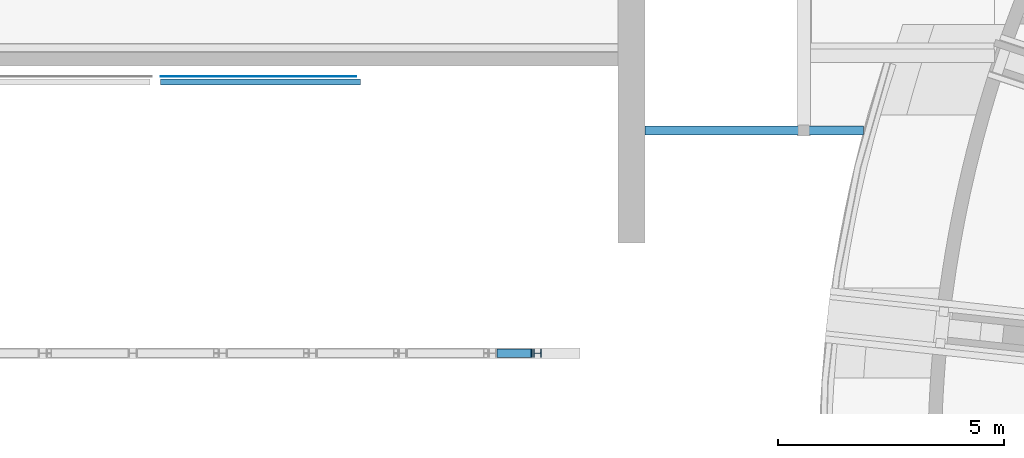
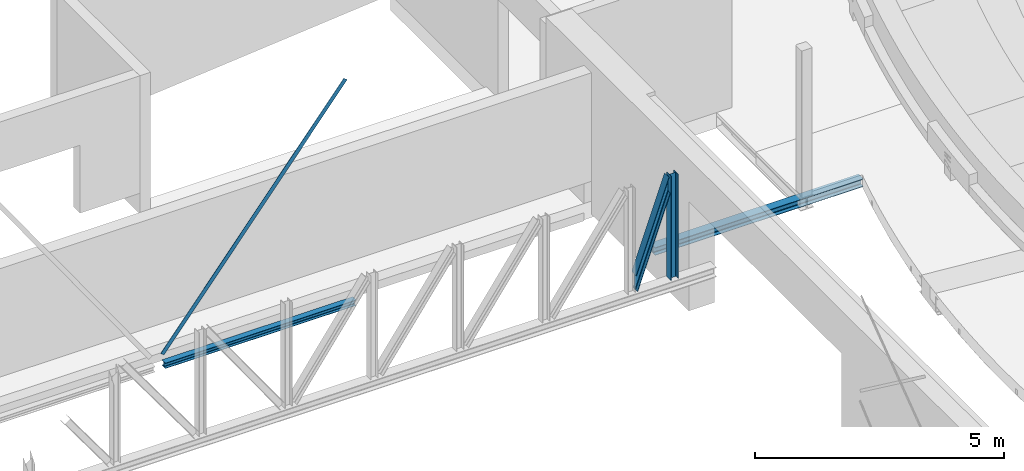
# One storey, part 21 of 68: 5 beams.
"""IFC2X3 building model written with IfcOpenShell, lengths in millimetres."""

from ifc_helpers import new_model, entity, si_unit, converted_unit, derived_unit, direction, frame, frame_2d, origin, place, context, subcontext, project, spatial, polyline, circle_curve, parameter, trimmed, segment, composite_curve, rectangle, i_section, outline, extrude, clip, halfspace, material, type_object, element, save


model = new_model("IFC2X3")

# Units and contexts
model_context = context("Model", 3, precision=0.01, world=origin(), true_north=direction((6.12303176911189e-17, 1.0)))
body_context = subcontext(model_context, "Body", "Model", "MODEL_VIEW")
ifc_project = project(units=[si_unit("LENGTHUNIT", "METRE", prefix="MILLI"), si_unit("AREAUNIT", "SQUARE_METRE", prefix="MILLI"), si_unit("VOLUMEUNIT", "CUBIC_METRE"), converted_unit("PLANEANGLEUNIT", "DEGREE", entity("IfcRatioMeasure", 0.0174532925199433), si_unit("PLANEANGLEUNIT", "RADIAN"), dimensions=[0, 0, 0, 0, 0, 0, 0]), si_unit("MASSUNIT", "GRAM", prefix="KILO"), derived_unit("MASSDENSITYUNIT", [(si_unit("MASSUNIT", "GRAM", prefix="KILO"), 1), (si_unit("LENGTHUNIT", "METRE"), -3)]), derived_unit("MOMENTOFINERTIAUNIT", [(si_unit("LENGTHUNIT", "METRE"), 4)]), si_unit("TIMEUNIT", "SECOND"), si_unit("FREQUENCYUNIT", "HERTZ"), si_unit("THERMODYNAMICTEMPERATUREUNIT", "DEGREE_CELSIUS"), derived_unit("THERMALTRANSMITTANCEUNIT", [(si_unit("MASSUNIT", "GRAM", prefix="KILO"), 1), (si_unit("THERMODYNAMICTEMPERATUREUNIT", "KELVIN"), -1), (si_unit("TIMEUNIT", "SECOND"), -3)]), derived_unit("VOLUMETRICFLOWRATEUNIT", [(si_unit("LENGTHUNIT", "METRE"), 3), (si_unit("TIMEUNIT", "SECOND"), -1)]), si_unit("ELECTRICCURRENTUNIT", "AMPERE"), si_unit("ELECTRICVOLTAGEUNIT", "VOLT"), si_unit("POWERUNIT", "WATT"), si_unit("FORCEUNIT", "NEWTON", prefix="KILO"), si_unit("ILLUMINANCEUNIT", "LUX"), si_unit("LUMINOUSFLUXUNIT", "LUMEN"), si_unit("LUMINOUSINTENSITYUNIT", "CANDELA"), derived_unit("USERDEFINED", [(si_unit("MASSUNIT", "GRAM", prefix="KILO"), -1), (si_unit("LENGTHUNIT", "METRE"), -2), (si_unit("TIMEUNIT", "SECOND"), 3), (si_unit("LUMINOUSFLUXUNIT", "LUMEN"), 1)]), derived_unit("LINEARVELOCITYUNIT", [(si_unit("LENGTHUNIT", "METRE"), 1), (si_unit("TIMEUNIT", "SECOND"), -1)]), si_unit("PRESSUREUNIT", "PASCAL"), derived_unit("USERDEFINED", [(si_unit("LENGTHUNIT", "METRE"), -2), (si_unit("MASSUNIT", "GRAM", prefix="KILO"), 1), (si_unit("TIMEUNIT", "SECOND"), -2)]), derived_unit("LINEARFORCEUNIT", [(si_unit("MASSUNIT", "GRAM", prefix="KILO"), 1), (si_unit("LENGTHUNIT", "METRE"), 1), (si_unit("TIMEUNIT", "SECOND"), -2), (si_unit("LENGTHUNIT", "METRE"), -1)]), derived_unit("PLANARFORCEUNIT", [(si_unit("MASSUNIT", "GRAM", prefix="KILO"), 1), (si_unit("LENGTHUNIT", "METRE"), 1), (si_unit("TIMEUNIT", "SECOND"), -2), (si_unit("LENGTHUNIT", "METRE"), -2)])], contexts=[model_context])

# Site, building, storey
site_placement = place(None, origin())
site = spatial("IfcSite", under=ifc_project, at=site_placement, Name="Theater aan de Parade", CompositionType="ELEMENT")
building_placement = place(site_placement, origin())
building = spatial("IfcBuilding", under=site, at=building_placement, Name="Theater aan de Parade", CompositionType="ELEMENT")
storey_placement = place(building_placement, frame((0.0, 0.0, 8750.0)))
storey = spatial("IfcBuildingStorey", under=building, at=storey_placement, Name="02 tweede verdieping", CompositionType="ELEMENT", Elevation=8750.0)

# Beams
ifc_material_1 = material(Name="00_PBT_MAT_staal_S355")
beam_type_1 = type_object("IfcBeamType", Name="28_PBT_SF_staal_H-profiel:S355_HE180A", PredefinedType="NOTDEFINED")
beam_1_placement = place(storey_placement, frame((35067.8569884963, 34918.2922984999, 2720.0), z_axis=(1.0, 0.0, 0.0), x_axis=(0.0, 0.0, 1.0)))
element("IfcBeam", 1, at=beam_1_placement, inside=storey, type_object=beam_type_1, material=ifc_material_1, Name="28_PBT_SF_staal_H-profiel:S355_HE180A", ObjectType="28_PBT_SF_staal_H-profiel:S355_HE180A", context=body_context, shape_type="SweptSolid", body=[
    extrude(i_section(OverallWidth=179.999999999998, OverallDepth=171.0, WebThickness=6.00000000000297, FlangeThickness=9.49999999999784, FilletRadius=15.0000000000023, at=frame_2d((2.16715534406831e-12, -2.16715534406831e-12), x_axis=(0.0, 1.0))), frame((132.699999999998, 0.0, 0.0), z_axis=(1.0, 0.0, 0.0), x_axis=(0.0, 0.0, -1.0)), (0.0, 0.0, 1.0), 2554.59999999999),
])
beam_2_placement = place(storey_placement, frame((34071.8569884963, 34918.2922984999, 2720.0), z_axis=(0.942916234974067, 0.0, -0.333029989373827), x_axis=(0.333029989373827, 0.0, 0.942916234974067)))
element("IfcBeam", 2, at=beam_2_placement, inside=storey, type_object=beam_type_1, material=ifc_material_1, Name="28_PBT_SF_staal_H-profiel:S355_HE180A", ObjectType="28_PBT_SF_staal_H-profiel:S355_HE180A", context=body_context, shape_type="Clipping", body=[
    clip(clip(extrude(outline(composite_curve([segment(polyline([(76.0, -90.0), (85.5000000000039, -90.0)]), True, "CONTINUOUS"), segment(polyline([(85.5000000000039, -90.0), (85.5000000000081, 90.0)]), True, "CONTINUOUS"), segment(polyline([(85.5000000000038, 90.0), (76.0, 90.0)]), True, "CONTINUOUS"), segment(polyline([(76.0, 90.0), (76.0, 18.0)]), True, "CONTINUOUS"), segment(trimmed(circle_curve(frame_2d((61.0, 18.0), x_axis=(1.0, 0.0)), 14.9999999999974), [parameter(269.999999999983)], [parameter(0.0)], True, "PARAMETER"), False, "CONTINUOUS"), segment(polyline([(61.0, 3.0), (-61.0, 3.0)]), True, "CONTINUOUS"), segment(trimmed(circle_curve(frame_2d((-61.0, 18.0), x_axis=(0.0, -1.0)), 15.0000000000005), [parameter(270.000000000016)], [parameter(0.0)], True, "PARAMETER"), False, "CONTINUOUS"), segment(polyline([(-76.0, 18.0), (-76.0, 90.0)]), True, "CONTINUOUS"), segment(polyline([(-76.0, 90.0), (-85.5000000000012, 90.0)]), True, "CONTINUOUS"), segment(polyline([(-85.5000000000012, 90.0), (-85.5000000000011, -90.0)]), True, "CONTINUOUS"), segment(polyline([(-85.5000000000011, -90.0), (-76.0, -90.0)]), True, "CONTINUOUS"), segment(polyline([(-76.0, -90.0), (-76.0, -18.0)]), True, "CONTINUOUS"), segment(trimmed(circle_curve(frame_2d((-61.0, -18.0), x_axis=(-1.0, 0.0)), 15.0000000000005), [parameter(270.000000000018)], [parameter(0.0)], True, "PARAMETER"), False, "CONTINUOUS"), segment(polyline([(-61.0, -3.0), (61.0, -3.0)]), True, "CONTINUOUS"), segment(trimmed(circle_curve(frame_2d((61.0, -18.0), x_axis=(0.0, 1.0)), 14.9999999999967), [parameter(269.999999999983)], [parameter(0.0)], True, "PARAMETER"), False, "CONTINUOUS"), segment(polyline([(76.0, -18.0), (76.0, -90.0)]), True, "CONTINUOUS")], self_intersect=False)), frame((170.162623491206, 0.0, 0.0), z_axis=(1.0, 0.0, 0.0), x_axis=(0.0, 0.0, -1.0)), (0.0, 0.0, 1.0), 2650.39640506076), halfspace(frame((141.401323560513, -110.0, 61.9451829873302), z_axis=(-0.333029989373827, 0.0, -0.942916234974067), x_axis=(0.942916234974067, 0.0, -0.333029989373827)), False)), halfspace(frame((402.829865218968, 110.0, 802.134427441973), z_axis=(0.333029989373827, 0.0, 0.942916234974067), x_axis=(0.942916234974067, 0.0, -0.333029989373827)), False)),
])
beam_type_2 = type_object("IfcBeamType", Name="28_PBT_SF_staal_H-profiel:S355_HE140A", PredefinedType="NOTDEFINED")
beam_3_placement = place(storey_placement, frame((31148.6070032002, 40923.308327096, 0.0), z_axis=(0.0, 0.0, 1.0), x_axis=(-1.0, 0.0, 0.0)))
element("IfcBeam", 3, at=beam_3_placement, inside=storey, type_object=beam_type_2, material=ifc_material_1, Name="28_PBT_SF_staal_H-profiel:S355_HE140A", ObjectType="28_PBT_SF_staal_H-profiel:S355_HE140A", context=body_context, shape_type="SweptSolid", body=[
    extrude(outline(composite_curve([segment(polyline([(58.0, -70.0), (66.5000000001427, -70.0)]), True, "CONTINUOUS"), segment(polyline([(66.5000000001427, -70.0), (66.4999999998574, 70.0)]), True, "CONTINUOUS"), segment(polyline([(66.4999999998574, 70.0), (58.0, 70.0)]), True, "CONTINUOUS"), segment(polyline([(58.0, 70.0), (58.0, 14.7500000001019)]), True, "CONTINUOUS"), segment(trimmed(circle_curve(frame_2d((46.0, 14.7500000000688), x_axis=(1.0, 0.0)), 11.9999999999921), [parameter(269.999999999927)], [parameter(0.0)], True, "PARAMETER"), False, "CONTINUOUS"), segment(polyline([(46.0, 2.75000000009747), (-46.0, 2.74999999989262)]), True, "CONTINUOUS"), segment(trimmed(circle_curve(frame_2d((-46.0, 14.7499999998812), x_axis=(0.0, -1.0)), 11.9999999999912), [parameter(269.999999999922)], [parameter(0.0)], True, "PARAMETER"), False, "CONTINUOUS"), segment(polyline([(-58.0, 14.7499999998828), (-58.0, 70.0)]), True, "CONTINUOUS"), segment(polyline([(-58.0, 70.0), (-66.5000000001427, 70.0)]), True, "CONTINUOUS"), segment(polyline([(-66.5000000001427, 70.0), (-66.4999999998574, -70.0)]), True, "CONTINUOUS"), segment(polyline([(-66.4999999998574, -70.0), (-58.0, -70.0)]), True, "CONTINUOUS"), segment(polyline([(-58.0, -70.0), (-58.0, -14.7500000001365)]), True, "CONTINUOUS"), segment(trimmed(circle_curve(frame_2d((-46.0, -14.7500000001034), x_axis=(-1.0, 0.0)), 11.9999999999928), [parameter(269.999999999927)], [parameter(0.0)], True, "PARAMETER"), False, "CONTINUOUS"), segment(polyline([(-46.0, -2.75000000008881), (46.0, -2.74999999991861)]), True, "CONTINUOUS"), segment(trimmed(circle_curve(frame_2d((46.0, -14.7499999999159), x_axis=(0.0, 1.0)), 11.9999999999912), [parameter(269.999999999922)], [parameter(0.0)], True, "PARAMETER"), False, "CONTINUOUS"), segment(polyline([(58.0, -14.7499999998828), (58.0, -70.0)]), True, "CONTINUOUS")], self_intersect=False)), frame((0.0, 0.0, -1.50000000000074), z_axis=(1.0, 0.0, 0.0), x_axis=(0.0, 0.0, -1.0)), (0.0, 0.0, 1.0), 4424.75),
])
ifc_material_2 = material(Name="00_PBT_MAT_staal")
beam_type_3 = type_object("IfcBeamType", Name="28_PBT_SF_staal_strip:strip 6x100", PredefinedType="NOTDEFINED")
beam_4_placement = place(storey_placement, frame((26641.2196610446, 41043.3083270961, 7.45210587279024), z_axis=(0.778238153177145, 0.0, -0.627969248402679), x_axis=(0.627969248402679, 0.0, 0.778238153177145)))
element("IfcBeam", 4, at=beam_4_placement, inside=storey, type_object=beam_type_3, material=ifc_material_2, Name="28_PBT_SF_staal_strip:strip 6x100", ObjectType="28_PBT_SF_staal_strip:strip 6x100", context=body_context, shape_type="SweptSolid", body=[
    extrude(rectangle(XDim=100.000000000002, YDim=6.0000000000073, at=frame_2d((-2.36966002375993e-12, -4.33142410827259e-12), x_axis=(1.0, 0.0))), frame((190.92415947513, -3.0, 0.0), z_axis=(1.0, 0.0, 0.0), x_axis=(0.0, 0.0, -1.0)), (0.0, 0.0, 1.0), 6769.07584052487),
])
beam_type_4 = type_object("IfcBeamType", Name="28_PBT_SF_staal_H-profiel (void):S355_HE200A", PredefinedType="NOTDEFINED")
beam_5_placement = place(storey_placement, frame((42287.0116824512, 39850.0, 0.0), z_axis=(0.0, 0.0, 1.0), x_axis=(-1.0, 0.0, 0.0)))
element("IfcBeam", 5, at=beam_5_placement, inside=storey, type_object=beam_type_4, material=ifc_material_1, Name="28_PBT_SF_staal_H-profiel (void):S355_HE200A", ObjectType="28_PBT_SF_staal_H-profiel (void):S355_HE200A", context=body_context, shape_type="SweptSolid", body=[
    extrude(outline(composite_curve([segment(polyline([(85.0, -100.0), (95.0, -100.0)]), True, "CONTINUOUS"), segment(polyline([(95.0, -100.0), (95.0, 100.0)]), True, "CONTINUOUS"), segment(polyline([(95.0, 100.0), (85.0, 100.0)]), True, "CONTINUOUS"), segment(polyline([(85.0, 100.0), (85.0, 21.2500000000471)]), True, "CONTINUOUS"), segment(trimmed(circle_curve(frame_2d((67.0, 21.2500000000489), x_axis=(1.0, 0.0)), 17.9999999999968), [parameter(269.99999999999)], [parameter(0.0)], True, "PARAMETER"), False, "CONTINUOUS"), segment(polyline([(67.0, 3.25000000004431), (-67.0, 3.24999999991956)]), True, "CONTINUOUS"), segment(trimmed(circle_curve(frame_2d((-67.0, 21.2499999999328), x_axis=(0.0, -1.0)), 17.9999999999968), [parameter(269.99999999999)], [parameter(0.0)], True, "PARAMETER"), False, "CONTINUOUS"), segment(polyline([(-85.0, 21.2499999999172), (-85.0, 100.0)]), True, "CONTINUOUS"), segment(polyline([(-85.0, 100.0), (-95.0, 100.0)]), True, "CONTINUOUS"), segment(polyline([(-95.0, 100.0), (-95.0, -100.0)]), True, "CONTINUOUS"), segment(polyline([(-95.0, -100.0), (-85.0, -100.0)]), True, "CONTINUOUS"), segment(polyline([(-85.0, -100.0), (-85.0, -21.2500000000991)]), True, "CONTINUOUS"), segment(trimmed(circle_curve(frame_2d((-67.0, -21.2500000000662), x_axis=(-1.0, 0.0)), 17.9999999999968), [parameter(269.99999999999)], [parameter(0.0)], True, "PARAMETER"), False, "CONTINUOUS"), segment(polyline([(-67.0, -3.2500000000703), (67.0, -3.24999999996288)]), True, "CONTINUOUS"), segment(trimmed(circle_curve(frame_2d((67.0, -21.2499999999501), x_axis=(0.0, 1.0)), 17.9999999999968), [parameter(269.99999999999)], [parameter(0.0)], True, "PARAMETER"), False, "CONTINUOUS"), segment(polyline([(85.0, -21.2499999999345), (85.0, -100.0)]), True, "CONTINUOUS")], self_intersect=False)), frame((0.0, 0.0, -285.0), z_axis=(1.0, 0.0, 0.0), x_axis=(0.0, 0.0, -1.0)), (0.0, 0.0, 1.0), 4833.1535523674),
])

save(model, "model.ifc")
